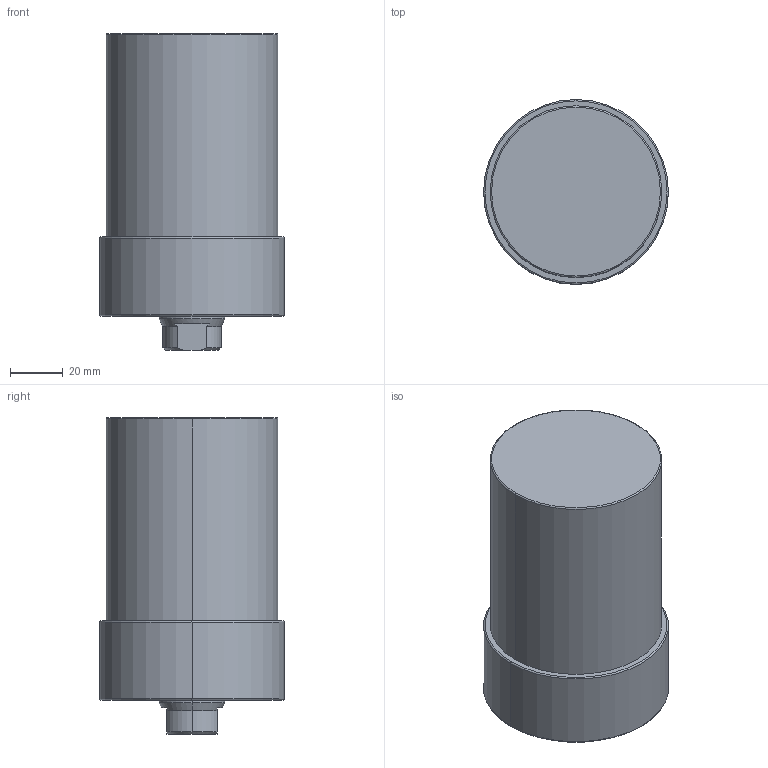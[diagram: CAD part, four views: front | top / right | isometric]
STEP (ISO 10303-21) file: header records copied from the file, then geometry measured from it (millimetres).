
FILE_DESCRIPTION (( 'STEP AP203' ), '1' );
FILE_NAME ('CLLU-065GA-060.STEP', '2020-01-06T08:16:05', ( '' ), ( '' ), 'SwSTEP 2.0', 'SolidWorks 2015', '' );
FILE_SCHEMA (( 'CONFIG_CONTROL_DESIGN' ));
Length unit declared in the file: millimetre
Products named in the file (1): CLLU-065GA-060
Bounding box: 70 x 70 x 120 mm (x, y, z)
Volume: 371500.4 mm3; surface area: 32887.5 mm2
Topology: 1 solids, 1 shells, 64 faces, 145 edges, 82 vertices
Faces by surface type: cone 25, cylinder 23, plane 10, torus 6
Entity records: 1811 total; most frequent: DIRECTION 332, CARTESIAN_POINT 310, ORIENTED_EDGE 270, AXIS2_PLACEMENT_3D 140, EDGE_CURVE 135, VERTEX_POINT 82, CIRCLE 75, EDGE_LOOP 73
